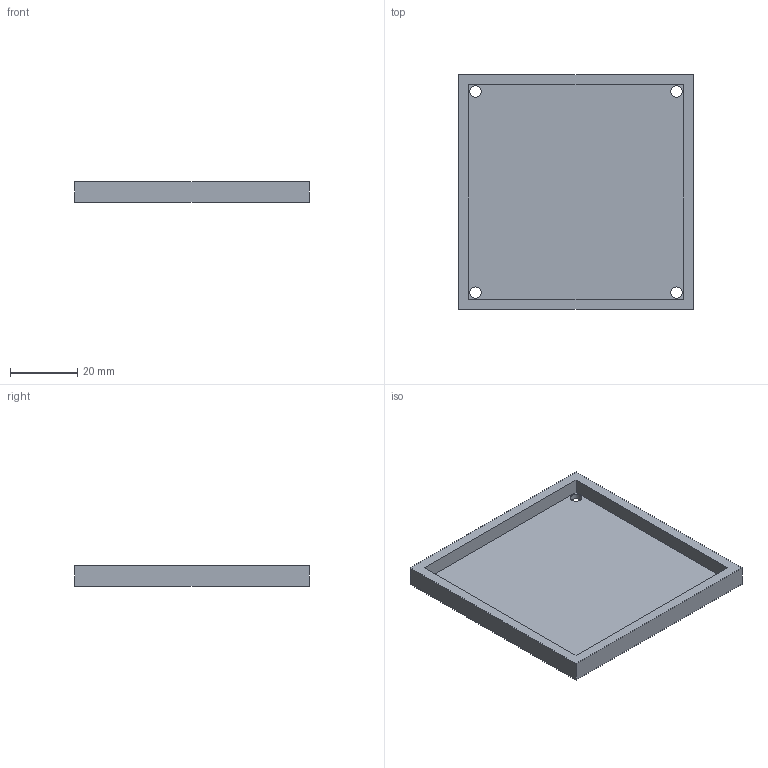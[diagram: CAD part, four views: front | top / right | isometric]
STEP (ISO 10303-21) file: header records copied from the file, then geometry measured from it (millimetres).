
FILE_DESCRIPTION(('Open CASCADE Model'),'2;1');
FILE_NAME('Open CASCADE Shape Model','2026-11-10T18:04:08',('Author'),( 'Open CASCADE'),'Open CASCADE STEP processor 7.9','Open CASCADE 7.9' ,'Unknown');
FILE_SCHEMA(('AUTOMOTIVE_DESIGN { 1 0 10303 214 1 1 1 1 }'));
Length unit declared in the file: millimetre
Products named in the file (1): Open CASCADE STEP translator 7.9 11
Bounding box: 70 x 70 x 6 mm (x, y, z)
Volume: 10913.5 mm3; surface area: 12623.5 mm2
Topology: 1 solids, 1 shells, 15 faces, 36 edges, 24 vertices
Faces by surface type: plane 11, cylinder 4
Full cylindrical faces by diameter (mm): 3.4 x4
Entity records: 924 total; most frequent: CARTESIAN_POINT 156, DIRECTION 140, LINE 84, VECTOR 84, ORIENTED_EDGE 72, PCURVE 72, DEFINITIONAL_REPRESENTATION 72, EDGE_CURVE 36
